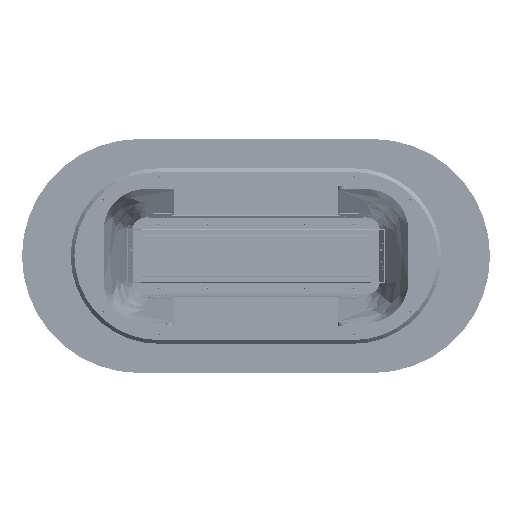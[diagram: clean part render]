
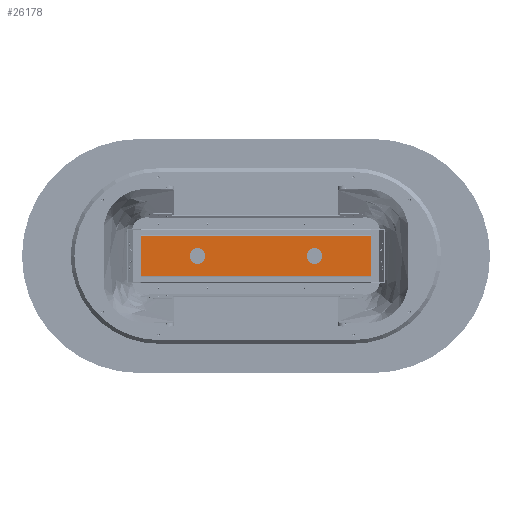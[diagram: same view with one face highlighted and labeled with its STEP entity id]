
A CAD part, front view. The second image highlights one B-rep face of the part: STEP entity #26178.
In plain terms, the highlighted planar face has unit normal (0, -1, 0).
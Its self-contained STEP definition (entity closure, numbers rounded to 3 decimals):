
#1132 = DIRECTION ( 'NONE',  ( 0., 0., -1. ) ) ;
#1273 = CARTESIAN_POINT ( 'NONE',  ( 104.5, -2., 591. ) ) ;
#2095 = EDGE_LOOP ( 'NONE', ( #11434, #16792, #7039, #13131 ) ) ;
#2421 = LINE ( 'NONE', #18577, #13900 ) ;
#2454 = CARTESIAN_POINT ( 'NONE',  ( 0., -2., 300. ) ) ;
#4141 = FACE_BOUND ( 'NONE', #28492, .T. ) ;
#4156 = CARTESIAN_POINT ( 'NONE',  ( 104.5, -2., -591. ) ) ;
#5117 = ORIENTED_EDGE ( 'NONE', *, *, #26136, .F. ) ;
#6418 = EDGE_CURVE ( 'NONE', #27502, #27502, #23918, .T. ) ;
#6454 = CARTESIAN_POINT ( 'NONE',  ( 0., -2., -340. ) ) ;
#6591 = LINE ( 'NONE', #29677, #8958 ) ;
#6643 = EDGE_CURVE ( 'NONE', #26663, #29028, #23059, .T. ) ;
#6765 = PLANE ( 'NONE',  #29483 ) ;
#6909 = FACE_OUTER_BOUND ( 'NONE', #2095, .T. ) ;
#7039 = ORIENTED_EDGE ( 'NONE', *, *, #13575, .F. ) ;
#8184 = CARTESIAN_POINT ( 'NONE',  ( 0., -2., -300. ) ) ;
#8773 = DIRECTION ( 'NONE',  ( 0., -1., 0. ) ) ;
#8868 = CIRCLE ( 'NONE', #16247, 40. ) ;
#8958 = VECTOR ( 'NONE', #20428, 1000. ) ;
#9375 = FACE_BOUND ( 'NONE', #10576, .T. ) ;
#10050 = DIRECTION ( 'NONE',  ( 0., -1., 0. ) ) ;
#10341 = EDGE_CURVE ( 'NONE', #19641, #26210, #29149, .T. ) ;
#10467 = CARTESIAN_POINT ( 'NONE',  ( -104.5, -2., 591. ) ) ;
#10576 = EDGE_LOOP ( 'NONE', ( #5117 ) ) ;
#11434 = ORIENTED_EDGE ( 'NONE', *, *, #16995, .F. ) ;
#12605 = CARTESIAN_POINT ( 'NONE',  ( -104.5, -2., -591. ) ) ;
#13131 = ORIENTED_EDGE ( 'NONE', *, *, #6643, .T. ) ;
#13575 = EDGE_CURVE ( 'NONE', #26663, #26210, #2421, .T. ) ;
#13900 = VECTOR ( 'NONE', #19033, 1000. ) ;
#13993 = DIRECTION ( 'NONE',  ( 0., 0., -1. ) ) ;
#14610 = AXIS2_PLACEMENT_3D ( 'NONE', #8184, #10050, #1132 ) ;
#16147 = CARTESIAN_POINT ( 'NONE',  ( 0., -2., 0. ) ) ;
#16247 = AXIS2_PLACEMENT_3D ( 'NONE', #2454, #16298, #27652 ) ;
#16298 = DIRECTION ( 'NONE',  ( 0., -1., 0. ) ) ;
#16792 = ORIENTED_EDGE ( 'NONE', *, *, #10341, .T. ) ;
#16995 = EDGE_CURVE ( 'NONE', #19641, #29028, #6591, .T. ) ;
#17045 = VECTOR ( 'NONE', #22470, 1000. ) ;
#17161 = CARTESIAN_POINT ( 'NONE',  ( -104.5, -2., 591. ) ) ;
#17318 = DIRECTION ( 'NONE',  ( 0., 0., -1. ) ) ;
#17497 = ORIENTED_EDGE ( 'NONE', *, *, #6418, .F. ) ;
#18577 = CARTESIAN_POINT ( 'NONE',  ( -106., -2., -591. ) ) ;
#19033 = DIRECTION ( 'NONE',  ( -1., 0., 0. ) ) ;
#19298 = VERTEX_POINT ( 'NONE', #26355 ) ;
#19641 = VERTEX_POINT ( 'NONE', #10467 ) ;
#20428 = DIRECTION ( 'NONE',  ( 1., 0., 0. ) ) ;
#22470 = DIRECTION ( 'NONE',  ( 0., 0., 1. ) ) ;
#23059 = LINE ( 'NONE', #4156, #17045 ) ;
#23918 = CIRCLE ( 'NONE', #14610, 40. ) ;
#26136 = EDGE_CURVE ( 'NONE', #19298, #19298, #8868, .T. ) ;
#26178 = ADVANCED_FACE ( 'NONE', ( #4141, #9375, #6909 ), #6765, .T. ) ;
#26210 = VERTEX_POINT ( 'NONE', #12605 ) ;
#26355 = CARTESIAN_POINT ( 'NONE',  ( 0., -2., 260. ) ) ;
#26663 = VERTEX_POINT ( 'NONE', #26839 ) ;
#26839 = CARTESIAN_POINT ( 'NONE',  ( 104.5, -2., -591. ) ) ;
#27502 = VERTEX_POINT ( 'NONE', #6454 ) ;
#27652 = DIRECTION ( 'NONE',  ( 0., 0., -1. ) ) ;
#28492 = EDGE_LOOP ( 'NONE', ( #17497 ) ) ;
#29028 = VERTEX_POINT ( 'NONE', #1273 ) ;
#29149 = LINE ( 'NONE', #17161, #30128 ) ;
#29483 = AXIS2_PLACEMENT_3D ( 'NONE', #16147, #8773, #13993 ) ;
#29677 = CARTESIAN_POINT ( 'NONE',  ( -106., -2., 591. ) ) ;
#30128 = VECTOR ( 'NONE', #17318, 1000. ) ;
